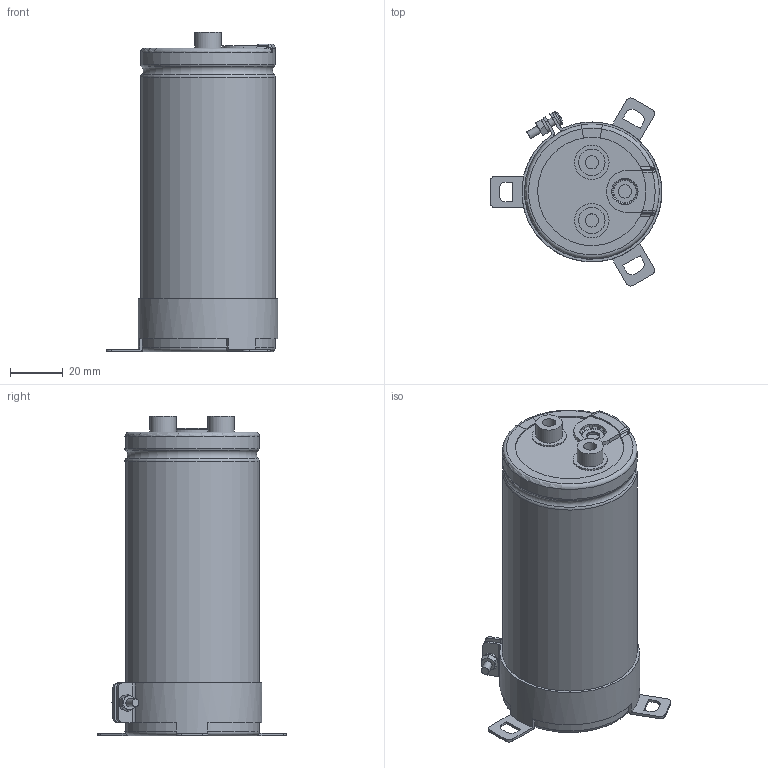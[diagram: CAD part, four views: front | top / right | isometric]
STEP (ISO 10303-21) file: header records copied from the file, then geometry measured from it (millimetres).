
FILE_DESCRIPTION(/* description */ (''),/* implementation_level */ '2;1');
FILE_NAME(/* name */ '51x115_Screw.stp',/* time_stamp */ '2017-09-15T13:53:28+09:00',/* author */ (''),/* organization */ (''),/* preprocessor_version */ 'ST-DEVELOPER v16',/* originating_system */ 'SIEMENS PLM Software NX 11.0',/* authorisation */ '');
FILE_SCHEMA (('AUTOMOTIVE_DESIGN { 1 0 10303 214 3 1 1 1 }'));
Length unit declared in the file: millimetre
Products named in the file (1): 51x115_Screw
Bounding box: 65 x 71.22 x 121 mm (x, y, z)
Volume: 236909.9 mm3; surface area: 69467 mm2
Topology: 9 solids, 9 shells, 298 faces, 744 edges, 471 vertices
Faces by surface type: plane 118, cylinder 78, torus 54, cone 31, bspline 12, sphere 5
Full cylindrical faces by diameter (mm): 3 x5, 5 x6, 5.5 x2, 10 x4, 13 x2, 49.8 x2
Entity records: 10562 total; most frequent: CARTESIAN_POINT 3129, DIRECTION 1450, ORIENTED_EDGE 1410, EDGE_CURVE 705, AXIS2_PLACEMENT_3D 606, VERTEX_POINT 464, EDGE_LOOP 353, CIRCLE 319
